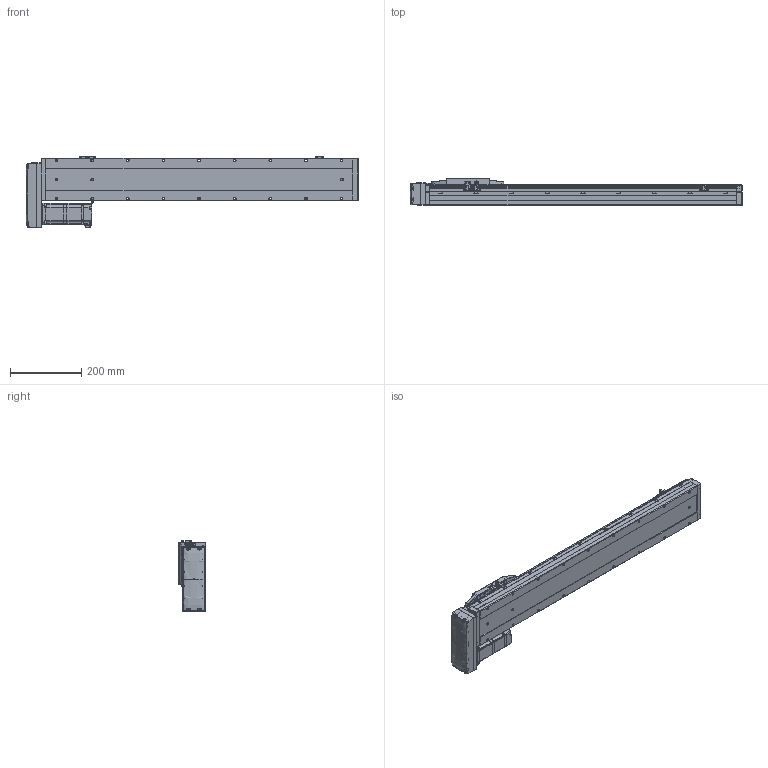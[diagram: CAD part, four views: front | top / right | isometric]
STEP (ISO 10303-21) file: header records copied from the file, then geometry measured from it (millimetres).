
FILE_DESCRIPTION (( 'STEP AP214' ), '1' );
FILE_NAME ('CTH12-L10-S650-BR-C40（简）.STEP', '2023-02-04T07:05:19', ( '' ), ( '' ), 'SwSTEP 2.0', 'SolidWorks 2018', '' );
FILE_SCHEMA (( 'AUTOMOTIVE_DESIGN' ));
Length unit declared in the file: millimetre
Products named in the file (24): CTH12賑怢ㄗ潠ㄘ; 嫖萇羲壽郪磁1; CTH嫖萇羲壽假蚾啣; 内六角圆柱头螺钉M3; hex nuts, style 1-grades ab gb_GB_FASTENER_NUT_SNAB1 M3-N; CTH12-L10-S650-BR-C40（简）; CTH12; CTH12_body_3; 嫖萇羲壽郪磁2; PM-Y45; CTH400W垫板（3个厚）; CTH12覜茼え; AC60_Valor predeterminado; CTH12侧装连接板（标准）简; 湮賑怢  裔赽-1(CTH12)賑怢; 内六角圆柱头螺钉M3-1; CTH12賑怢郪磁; 蚐郲; 内六角圆柱头螺钉M3-2; CTH12底座-L861简（650行程）; CTH400W假蚾啣; CTH12耜蚾裔; M5蹟隊; CTH12-BL_body_4
Assembly tree (44 placements, depth 4):
  CTH12-L10-S650-BR-C40（简）
    CTH12底座-L861简（650行程）
    蚐郲  x2
    CTH12_body_3
    CTH12-BL_body_4
    CTH12侧装连接板（标准）简
    CTH12耜蚾裔
    CTH12賑怢郪磁
      CTH12
        湮賑怢  裔赽-1(CTH12)賑怢
        CTH12賑怢ㄗ潠ㄘ
    CTH12覜茼え
    嫖萇羲壽郪磁1  x2
      CTH嫖萇羲壽假蚾啣
      PM-Y45
      内六角圆柱头螺钉M3-2
      内六角圆柱头螺钉M3-1
      hex nuts, style 1-grades ab gb_GB_FASTENER_NUT_SNAB1 M3-N
    嫖萇羲壽郪磁2
      CTH嫖萇羲壽假蚾啣
      PM-Y45
      内六角圆柱头螺钉M3-1  x2
      内六角圆柱头螺钉M3-2  x2
      hex nuts, style 1-grades ab gb_GB_FASTENER_NUT_SNAB1 M3-N  x2
    CTH400W垫板（3个厚）
    AC60_Valor predeterminado
    内六角圆柱头螺钉M3  x6
    M5蹟隊  x4
    CTH400W假蚾啣
Bounding box: 931.5 x 76 x 201.06 mm (x, y, z)
Volume: 6565208.9 mm3; surface area: 632955.7 mm2
Topology: 47 solids, 48 shells, 2819 faces, 7184 edges, 4583 vertices
Faces by surface type: plane 1535, cylinder 789, cone 343, bspline 100, torus 52
Entity records: 81757 total; most frequent: CARTESIAN_POINT 22470, ORIENTED_EDGE 11548, DIRECTION 11229, EDGE_CURVE 5774, AXIS2_PLACEMENT_3D 3800, VERTEX_POINT 3687, VECTOR 3629, LINE 3629
